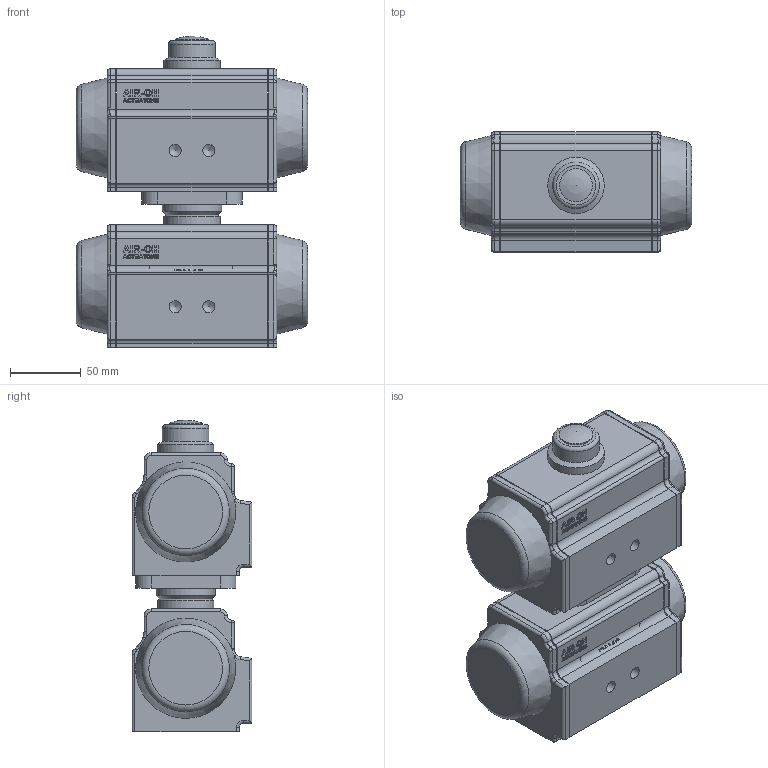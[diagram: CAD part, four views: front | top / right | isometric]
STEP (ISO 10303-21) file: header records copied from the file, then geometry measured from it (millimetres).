
FILE_DESCRIPTION( ( 'Unknown' ), '1' );
FILE_NAME( 'J:/Muud/ROOTSI BPS 3D vidinad/Kuulkraanid/Roostevaba kuulkraanid/Ball valve BPS 2411/Ball valve with pneumatic actuator BPS/STEP formaat/BPS 2411040P ball valve DN40.stp', 'Unknown', ( 'Unknown' ), ( 'Unknown' ), 'PSStep 10.1', 'Unknown', ' ' );
FILE_SCHEMA( ( 'AUTOMOTIVE_DESIGN { 1 0 10303 214 1 1 1 1 }' ) );
Length unit declared in the file: millimetre
Products named in the file (5): Assem1; BPS 2411040 ball valve DN40; BPS 8300063DA-SR pneumatic actuator
Bounding box: 164 x 85 x 220.7 mm (x, y, z)
Volume: 2501939.2 mm3; surface area: 292901.9 mm2
Topology: 8 solids, 8 shells, 920 faces, 2316 edges, 1510 vertices
Faces by surface type: plane 362, extrusion 202, cylinder 194, bspline 86, torus 42, cone 28, sphere 6
Full cylindrical faces by diameter (mm): 4.917 x8, 6.647 x8, 8.566 x4, 23.5 x2, 33 x4, 38 x2, 40 x2, 42 x2, 44.845 x4, 73 x2
Entity records: 23513 total; most frequent: CARTESIAN_POINT 10012, ORIENTED_EDGE 2120, DIRECTION 1556, EDGE_CURVE 1060, VERTEX_POINT 726, EDGE_LOOP 574, VECTOR 546, B_SPLINE_CURVE_WITH_KNOTS 530
